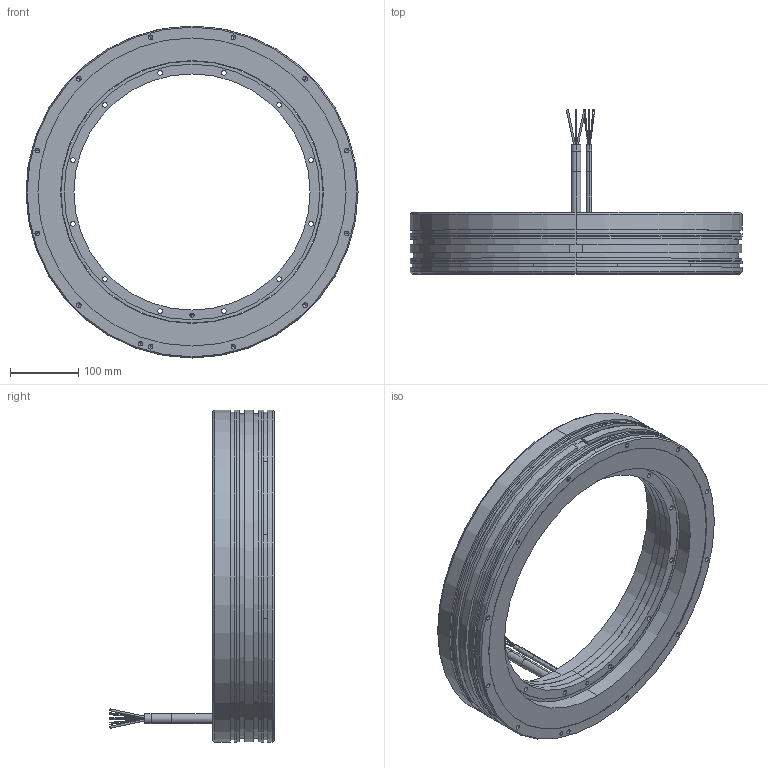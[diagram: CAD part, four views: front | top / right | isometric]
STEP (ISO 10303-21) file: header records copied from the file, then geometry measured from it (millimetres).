
FILE_DESCRIPTION (( 'STEP AP203' ), '1' );
FILE_NAME ('TM-2-D3.STEP', '2023-08-03T03:06:55', ( '' ), ( '' ), 'SwSTEP 2.0', 'SolidWorks 2015', '' );
FILE_SCHEMA (( 'CONFIG_CONTROL_DESIGN' ));
Length unit declared in the file: millimetre
Products named in the file (3): TM-2-DX_rotor_TM-2-D3_rotor; TM-2-D3; TM-2-DX_stator_TM-2-D3_stator
Assembly tree (2 placements, depth 2):
  TM-2-D3
    TM-2-DX_stator_TM-2-D3_stator
    TM-2-DX_rotor_TM-2-D3_rotor
Bounding box: 485 x 240.29 x 485 mm (x, y, z)
Volume: 6581742.9 mm3; surface area: 569410.9 mm2
Topology: 2 solids, 2 shells, 261 faces, 611 edges, 354 vertices
Faces by surface type: cylinder 158, cone 64, plane 39
Entity records: 7524 total; most frequent: DIRECTION 1351, CARTESIAN_POINT 1317, ORIENTED_EDGE 1110, AXIS2_PLACEMENT_3D 558, EDGE_CURVE 555, VERTEX_POINT 354, EDGE_LOOP 347, CIRCLE 292
